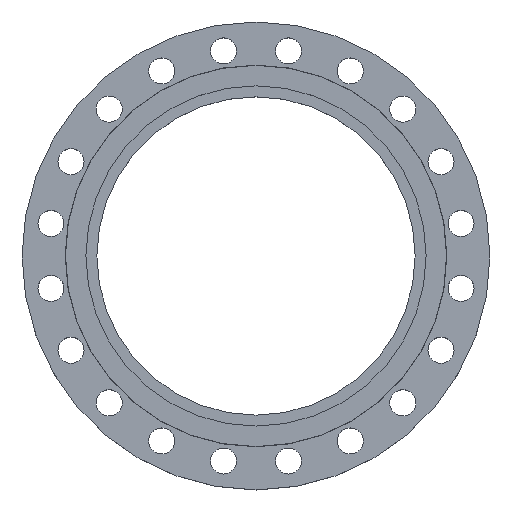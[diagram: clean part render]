
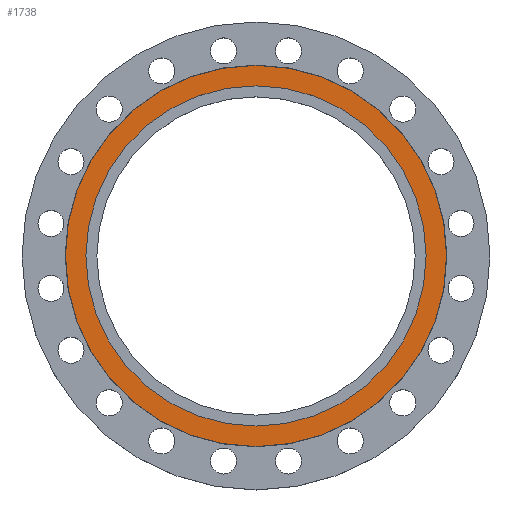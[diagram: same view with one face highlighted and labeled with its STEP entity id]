
A CAD part, top view. The second image highlights one B-rep face of the part: STEP entity #1738.
In plain terms, the highlighted planar face has unit normal (0, 0, 1).
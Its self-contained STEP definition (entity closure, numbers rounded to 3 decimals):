
#47 = CARTESIAN_POINT ( 'NONE',  ( 0., 0., 0. ) ) ;
#90 = CARTESIAN_POINT ( 'NONE',  ( 274.5, 0., 0. ) ) ;
#144 = CARTESIAN_POINT ( 'NONE',  ( 307.5, 0., 0. ) ) ;
#178 = DIRECTION ( 'NONE',  ( -1., 0., 0. ) ) ;
#179 = AXIS2_PLACEMENT_3D ( 'NONE', #181, #180, #178 ) ;
#180 = DIRECTION ( 'NONE',  ( 0., 0., -1. ) ) ;
#181 = CARTESIAN_POINT ( 'NONE',  ( 0., 0., 0. ) ) ;
#182 = CIRCLE ( 'NONE', #179, 307.5 ) ;
#187 = CARTESIAN_POINT ( 'NONE',  ( -307.5, 0., 0. ) ) ;
#191 = CARTESIAN_POINT ( 'NONE',  ( -274.5, 0., 0. ) ) ;
#197 = DIRECTION ( 'NONE',  ( -1., 0., 0. ) ) ;
#198 = DIRECTION ( 'NONE',  ( 0., 0., -1. ) ) ;
#199 = CARTESIAN_POINT ( 'NONE',  ( 0., 0., 0. ) ) ;
#210 = AXIS2_PLACEMENT_3D ( 'NONE', #199, #198, #197 ) ;
#267 = FACE_OUTER_BOUND ( 'NONE', #750, .T. ) ;
#300 = CIRCLE ( 'NONE', #210, 274.5 ) ;
#341 = DIRECTION ( 'NONE',  ( 0., 0., -1. ) ) ;
#489 = DIRECTION ( 'NONE',  ( -1., 0., 0. ) ) ;
#602 = EDGE_LOOP ( 'NONE', ( #896, #891 ) ) ;
#694 = EDGE_CURVE ( 'NONE', #867, #1031, #300, .T. ) ;
#726 = VERTEX_POINT ( 'NONE', #187 ) ;
#734 = EDGE_CURVE ( 'NONE', #792, #726, #182, .T. ) ;
#750 = EDGE_LOOP ( 'NONE', ( #890, #889 ) ) ;
#792 = VERTEX_POINT ( 'NONE', #144 ) ;
#867 = VERTEX_POINT ( 'NONE', #90 ) ;
#889 = ORIENTED_EDGE ( 'NONE', *, *, #734, .F. ) ;
#890 = ORIENTED_EDGE ( 'NONE', *, *, #1493, .F. ) ;
#891 = ORIENTED_EDGE ( 'NONE', *, *, #694, .T. ) ;
#896 = ORIENTED_EDGE ( 'NONE', *, *, #1033, .T. ) ;
#945 = DIRECTION ( 'NONE',  ( 0., 0., 1. ) ) ;
#1031 = VERTEX_POINT ( 'NONE', #191 ) ;
#1033 = EDGE_CURVE ( 'NONE', #1031, #867, #1507, .T. ) ;
#1073 = FACE_BOUND ( 'NONE', #602, .T. ) ;
#1081 = AXIS2_PLACEMENT_3D ( 'NONE', #47, #945, #1441 ) ;
#1120 = DIRECTION ( 'NONE',  ( -1., 0., 0. ) ) ;
#1438 = AXIS2_PLACEMENT_3D ( 'NONE', #1700, #341, #1120 ) ;
#1441 = DIRECTION ( 'NONE',  ( 1., 0., 0. ) ) ;
#1462 = CIRCLE ( 'NONE', #1438, 307.5 ) ;
#1493 = EDGE_CURVE ( 'NONE', #726, #792, #1462, .T. ) ;
#1507 = CIRCLE ( 'NONE', #1533, 274.5 ) ;
#1533 = AXIS2_PLACEMENT_3D ( 'NONE', #1745, #1602, #489 ) ;
#1584 = PLANE ( 'NONE',  #1081 ) ;
#1602 = DIRECTION ( 'NONE',  ( 0., 0., -1. ) ) ;
#1700 = CARTESIAN_POINT ( 'NONE',  ( 0., 0., 0. ) ) ;
#1738 = ADVANCED_FACE ( 'NONE', ( #267, #1073 ), #1584, .T. ) ;
#1745 = CARTESIAN_POINT ( 'NONE',  ( 0., 0., 0. ) ) ;
